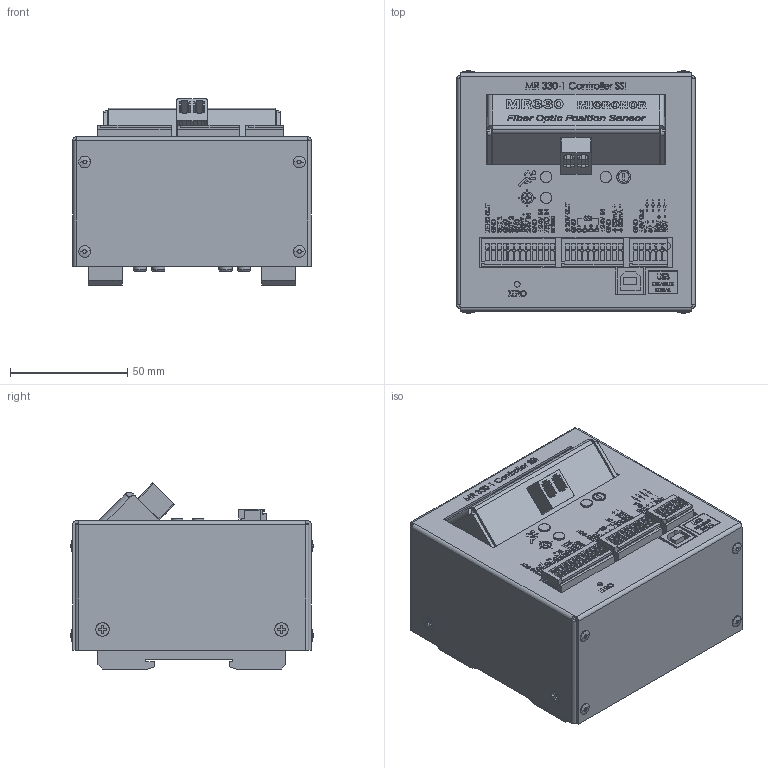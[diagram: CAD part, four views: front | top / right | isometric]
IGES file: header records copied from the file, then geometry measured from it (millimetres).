
Start section: SolidWorks IGES file using analytic representation for surfaces
Global section: file name: C:\Users\Endless Met\Desktop\MICRONOR_CAD_MR330\MR330.IGS; native system: SolidWorks 2016; preprocessor: SolidWorks 2016; author: Endless Met; date: 170302.100126; units: inch
Bounding box: 101.6 x 103.15 x 79.33 mm (x, y, z)
Surface area: 88830.2 mm2 (no closed solid volume)
Topology: 0 solids, 0 shells, 1202 faces, 27711 edges, 27711 vertices
Faces by surface type: bspline 1004, revolution 198
